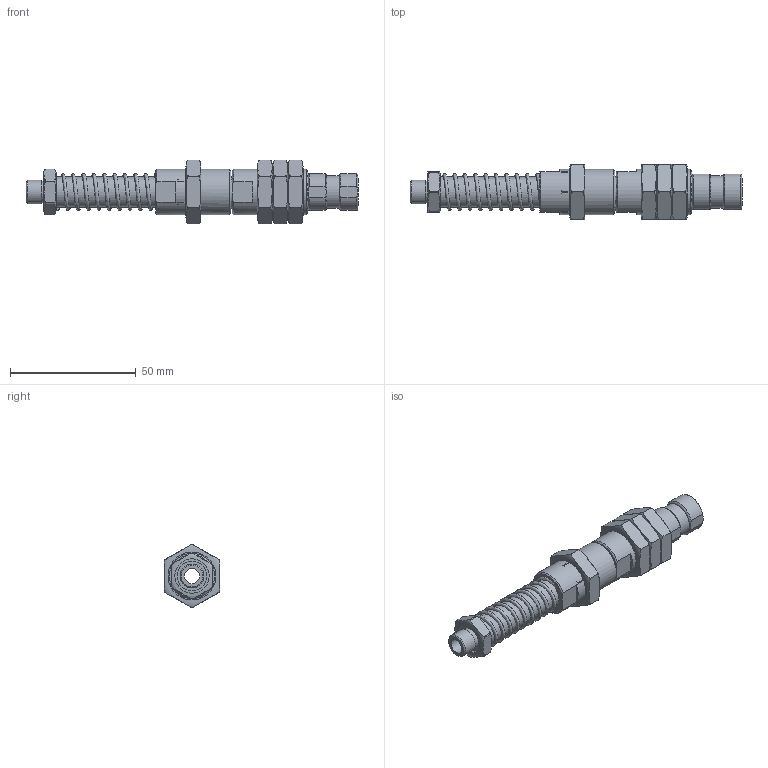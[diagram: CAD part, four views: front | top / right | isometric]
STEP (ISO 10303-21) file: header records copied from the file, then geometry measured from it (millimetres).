
FILE_DESCRIPTION( ( 'Unknown' ), '1' );
FILE_NAME( 'C:/Documents and Settings/Owner/官帕 拳搁/LEVEL SPRING HOMEPAGE/L18 Series/L1850TS/L1850TS.stp', 'Unknown', ( 'Unknown' ), ( 'Unknown' ), 'PSStep 10.0', 'Unknown', ' ' );
FILE_SCHEMA( ( 'AUTOMOTIVE_DESIGN { 1 0 10303 214 1 1 1 1 }' ) );
Length unit declared in the file: millimetre
Products named in the file (7): Assem1; SHA; nipple; HOU; upper; NUT(M18XP1); spring
Bounding box: 132 x 22 x 25.4 mm (x, y, z)
Surface area: 35782.2 mm2 (no closed solid volume)
Topology: 0 solids, 192 shells, 192 faces, 768 edges, 692 vertices
Faces by surface type: plane 92, cylinder 56, cone 22, revolution 12, torus 8, bspline 2
Full cylindrical faces by diameter (mm): 6 x4, 8.2 x2, 8.5 x4, 8.8 x2, 9.5 x6, 9.8 x4, 11.8 x2, 11.9 x2, 12 x2, 13 x2, 18 x6
Entity records: 6864 total; most frequent: CARTESIAN_POINT 3738, DIRECTION 478, ORIENTED_EDGE 286, EDGE_CURVE 286, VERTEX_POINT 286, AXIS2_PLACEMENT_3D 203, FACE_BOUND 136, EDGE_LOOP 136
